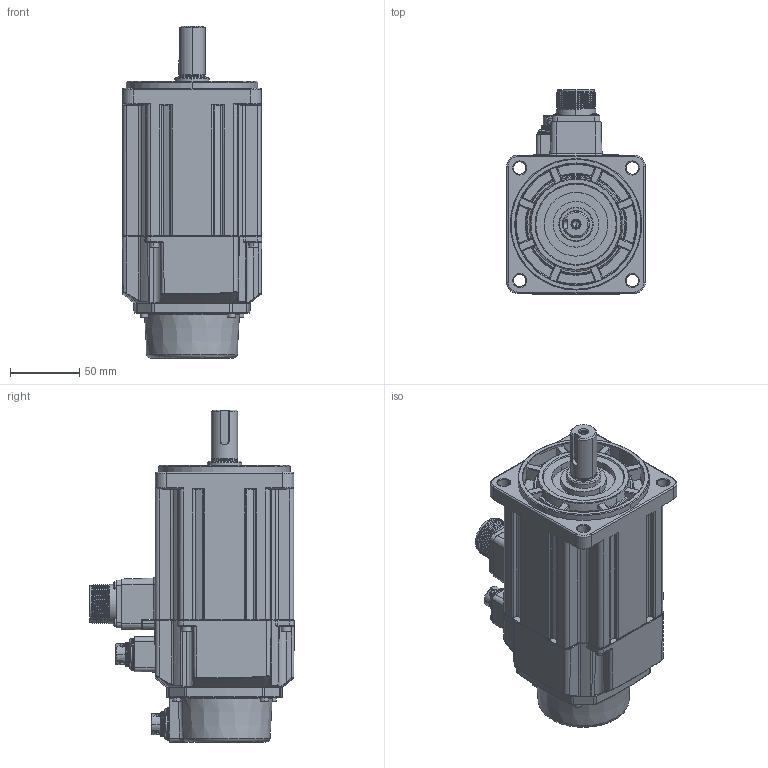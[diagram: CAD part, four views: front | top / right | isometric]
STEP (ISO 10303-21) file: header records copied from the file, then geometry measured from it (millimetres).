
FILE_DESCRIPTION((''),'2;1');
FILE_NAME('ECM-B3M-XX1015S91_ASM','2024-11-25T21:42:00',('JIADE.CHEN'),(''),'CREO PARAMETRIC BY PTC INC, 2020454','CREO PARAMETRIC BY PTC INC, 2020454','');
FILE_SCHEMA(('AUTOMOTIVE_DESIGN { 1 0 10303 214 1 1 1 1 }'));
Products named in the file (22): ECM-B3M-C21015SS1_202_SW0002__1; ECM-B3M-C21015SS1_202_SW0002__2; SHAFT_B3M_F1010_19; ECM-B3M-C21015SS1_202_SW0002_2_ASM; LQM37B48FFDB5MH_1_1; LQM37B48FFDB5MH_2_1; LQM37B48FFDB5MH_3_1; LQM37B48FFDB5MH_4_1; LQM37B48FFDB5MH_5_1; LQM37B48FFDB5MH_6_1; LQM37B48FFDB5MH_7_1; LQM37B48FFDB5MH_8_1; LQM37B48FFDB5MH_9_1; LQM37B48FFDB5MH_10_1; LQM37B48FFDB5MH_11_1; LQM37B48FFDB5MH_12_1; LQM37B48FFDB5MH_13_1; LQM37B48FFDB5MH_14_1; LQM37B48FFDB5MH_15_1; LQM37B48FFDB5MH_ASM_1_ASM; ASM0004_ASM_1_ASM; ECM-B3M-XX1015S91_ASM
Assembly tree (22 placements, depth 4):
  ECM-B3M-XX1015S91_ASM
    ASM0004_ASM_1_ASM
      ECM-B3M-C21015SS1_202_SW0002_2_ASM
        ECM-B3M-C21015SS1_202_SW0002__1
        ECM-B3M-C21015SS1_202_SW0002__2
        SHAFT_B3M_F1010_19
      LQM37B48FFDB5MH_ASM_1_ASM
        LQM37B48FFDB5MH_1_1
        LQM37B48FFDB5MH_2_1
        LQM37B48FFDB5MH_3_1
        LQM37B48FFDB5MH_4_1
        LQM37B48FFDB5MH_5_1
        LQM37B48FFDB5MH_6_1
        LQM37B48FFDB5MH_7_1
        LQM37B48FFDB5MH_8_1
        LQM37B48FFDB5MH_9_1
        LQM37B48FFDB5MH_10_1
        LQM37B48FFDB5MH_11_1
        LQM37B48FFDB5MH_12_1
        LQM37B48FFDB5MH_13_1
        LQM37B48FFDB5MH_14_1
        LQM37B48FFDB5MH_15_1
      LQM37B48FFDB5MH_15_1
Bounding box: 100.79 x 147.79 x 239.9 mm (x, y, z)
Volume: 1566164.7 mm3; surface area: 139854 mm2
Topology: 17 solids, 25 shells, 4378 faces, 12476 edges, 8296 vertices
Faces by surface type: plane 2257, cylinder 1026, cone 531, torus 192, bspline 170, extrusion 150, sphere 52
Entity records: 151954 total; most frequent: CARTESIAN_POINT 42770, ORIENTED_EDGE 22938, DIRECTION 21647, EDGE_CURVE 11491, VERTEX_POINT 7675, AXIS2_PLACEMENT_3D 7434, VECTOR 6716, LINE 6641
